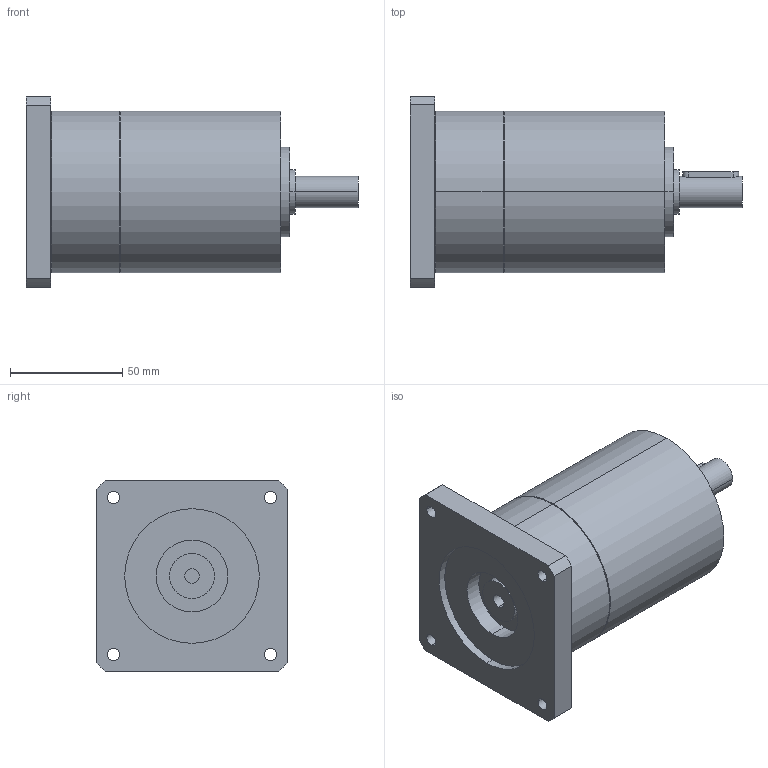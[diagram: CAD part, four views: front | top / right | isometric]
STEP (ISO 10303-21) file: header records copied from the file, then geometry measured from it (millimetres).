
FILE_DESCRIPTION(('CoCreate Modeling STEP Export'),'2;1');
FILE_NAME('GPT75_ig-9-12-16-20-25-28-35-40-50-70-100_14_B14T_6.35_P33.stp','2014-08-27T13:19:40',(''),(''),'CoCreate Modeling STEP processor for AP214 (Solid Model)','CoCreate Modeling 16.00C 25-Feb-2009 (C) Parametric Technology GmbH','');
FILE_SCHEMA(('AUTOMOTIVE_DESIGN { 1 0 10303 214 1 1 1 1 }'));
Length unit declared in the file: millimetre
Products named in the file (2): GPT75_ig-9-12-16-20-25-28-35-40-50-70-100_14_B14T_6.35_P33
Assembly tree (1 placements, depth 2):
  GPT75_ig-9-12-16-20-25-28-35-40-50-70-100_14_B14T_6.35_P33
    GPT75_ig-9-12-16-20-25-28-35-40-50-70-100_14_B14T_6.35_P33
Bounding box: 148 x 85 x 85 mm (x, y, z)
Volume: 488915.6 mm3; surface area: 47220 mm2
Topology: 1 solids, 1 shells, 69 faces, 166 edges, 113 vertices
Faces by surface type: cylinder 42, plane 23, cone 4
Entity records: 2161 total; most frequent: CARTESIAN_POINT 664, ORIENTED_EDGE 332, DIRECTION 262, EDGE_CURVE 166, VERTEX_POINT 113, AXIS2_PLACEMENT_3D 99, EDGE_LOOP 91, FACE_OUTER_BOUND 69
